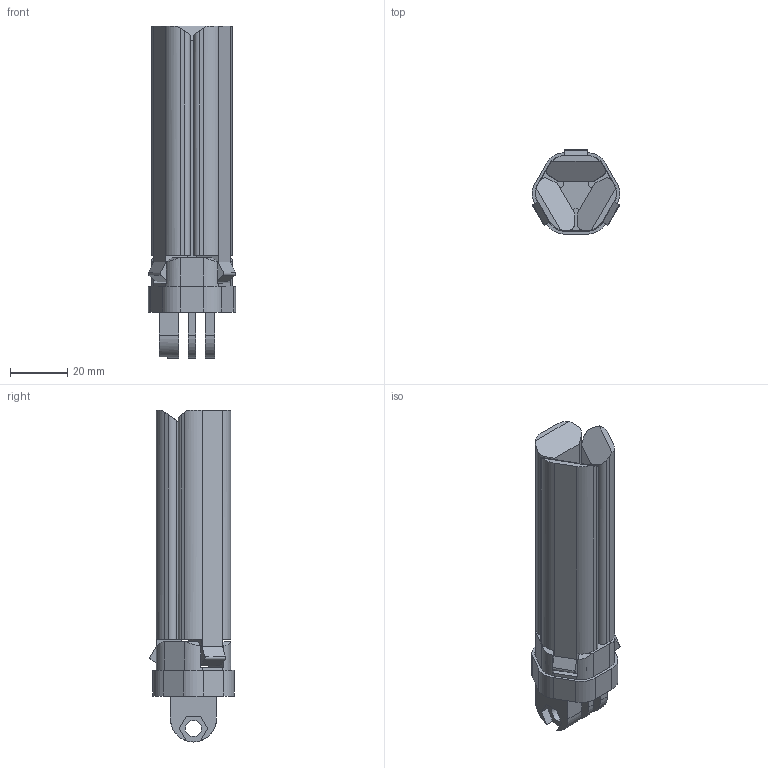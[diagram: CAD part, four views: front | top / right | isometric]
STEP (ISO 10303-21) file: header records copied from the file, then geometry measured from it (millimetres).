
FILE_DESCRIPTION(/* description */ (''),/* implementation_level */ '2;1');
FILE_NAME(/* name */ 'C:/Users/winte/Documents/3d drucken/gopro tripod .step',/* time_stamp */ '2021-12-18T12:09:56+01:00',/* author */ (''),/* organization */ (''),/* preprocessor_version */ 'ST-DEVELOPER v18.1',/* originating_system */ 'Autodesk Translation Framework v10.10.0.1391',/* authorisation */ '');
FILE_SCHEMA (('AUTOMOTIVE_DESIGN { 1 0 10303 214 3 1 1 }'));
Length unit declared in the file: millimetre
Products named in the file (1): gopro tripod
Bounding box: 30.54 x 29.38 x 115.8 mm (x, y, z)
Volume: 50017.6 mm3; surface area: 21230.9 mm2
Topology: 5 solids, 5 shells, 166 faces, 420 edges, 280 vertices
Faces by surface type: plane 115, cylinder 51
Full cylindrical faces by diameter (mm): 3 x6, 3.6 x6, 5.727 x3
Entity records: 5053 total; most frequent: DIRECTION 882, CARTESIAN_POINT 867, ORIENTED_EDGE 840, EDGE_CURVE 420, AXIS2_PLACEMENT_3D 295, LINE 292, VECTOR 292, VERTEX_POINT 280
